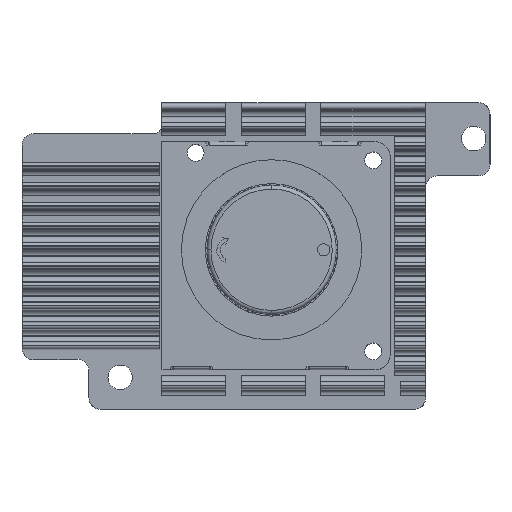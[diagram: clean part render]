
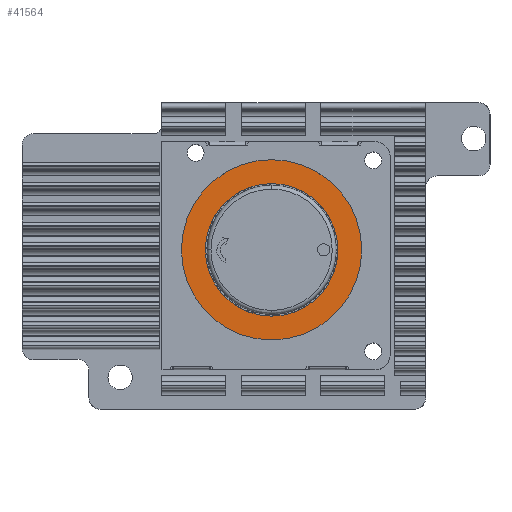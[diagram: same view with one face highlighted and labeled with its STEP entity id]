
A CAD part, top view. The second image highlights one B-rep face of the part: STEP entity #41564.
In plain terms, the highlighted planar face has unit normal (0, 0, 1).
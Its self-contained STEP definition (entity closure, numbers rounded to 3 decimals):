
#38407=CARTESIAN_POINT('',(22.1,36.79,11.25));
#38408=DIRECTION('',(0.,0.,-1.));
#38409=DIRECTION('',(-0.994,0.108,0.));
#38410=AXIS2_PLACEMENT_3D('',#38407,#38408,#38409);
#38412=CARTESIAN_POINT('',(22.1,36.79,11.25));
#38413=DIRECTION('',(0.,0.,-1.));
#38414=DIRECTION('',(1.,0.,0.));
#38415=AXIS2_PLACEMENT_3D('',#38412,#38413,#38414);
#38417=CARTESIAN_POINT('',(22.1,36.79,11.25));
#38418=DIRECTION('',(0.,0.,-1.));
#38419=DIRECTION('',(0.994,-0.108,0.));
#38420=AXIS2_PLACEMENT_3D('',#38417,#38418,#38419);
#38422=CARTESIAN_POINT('',(22.1,36.79,11.25));
#38423=DIRECTION('',(0.,0.,-1.));
#38424=DIRECTION('',(-1.,0.,0.));
#38425=AXIS2_PLACEMENT_3D('',#38422,#38423,#38424);
#38427=CARTESIAN_POINT('',(22.1,36.79,11.25));
#38428=DIRECTION('',(0.,0.,-1.));
#38429=DIRECTION('',(-0.998,0.066,0.));
#38430=AXIS2_PLACEMENT_3D('',#38427,#38428,#38429);
#38432=CARTESIAN_POINT('',(22.1,36.79,11.25));
#38433=DIRECTION('',(0.,0.,1.));
#38434=DIRECTION('',(0.,1.,0.));
#38435=AXIS2_PLACEMENT_3D('',#38432,#38433,#38434);
#38437=CARTESIAN_POINT('',(22.1,36.79,11.25));
#38438=DIRECTION('',(0.,0.,1.));
#38439=DIRECTION('',(0.,-1.,0.));
#38440=AXIS2_PLACEMENT_3D('',#38437,#38438,#38439);
#38675=CARTESIAN_POINT('',(22.1,45.426,11.25));
#38676=VERTEX_POINT('',#38675);
#38677=CARTESIAN_POINT('',(22.1,28.154,11.25));
#38678=VERTEX_POINT('',#38677);
#39261=CARTESIAN_POINT('',(9.673,38.143,11.25));
#39262=CARTESIAN_POINT('',(34.6,36.79,11.25));
#39263=VERTEX_POINT('',#39261);
#39264=VERTEX_POINT('',#39262);
#39265=CARTESIAN_POINT('',(34.527,35.437,11.25));
#39266=VERTEX_POINT('',#39265);
#39267=CARTESIAN_POINT('',(9.6,36.79,11.25));
#39268=VERTEX_POINT('',#39267);
#39269=CARTESIAN_POINT('',(9.628,37.619,11.25));
#39270=VERTEX_POINT('',#39269);
#41543=CARTESIAN_POINT('',(22.1,36.79,11.25));
#41544=DIRECTION('',(0.,0.,-1.));
#41545=DIRECTION('',(-1.,0.,0.));
#41546=AXIS2_PLACEMENT_3D('',#41543,#41544,#41545);
#41547=PLANE('',#41546);
#41549=ORIENTED_EDGE('',*,*,#41548,.T.);
#41551=ORIENTED_EDGE('',*,*,#41550,.T.);
#41553=ORIENTED_EDGE('',*,*,#41552,.T.);
#41555=ORIENTED_EDGE('',*,*,#41554,.T.);
#41557=ORIENTED_EDGE('',*,*,#41556,.T.);
#41558=EDGE_LOOP('',(#41549,#41551,#41553,#41555,#41557));
#41559=FACE_OUTER_BOUND('',#41558,.F.);
#41560=ORIENTED_EDGE('',*,*,#39750,.T.);
#41561=ORIENTED_EDGE('',*,*,#39332,.T.);
#41562=EDGE_LOOP('',(#41560,#41561));
#41563=FACE_BOUND('',#41562,.F.);
#41564=ADVANCED_FACE('',(#41559,#41563),#41547,.F.);
#38411=CIRCLE('',#38410,12.5);
#38416=CIRCLE('',#38415,12.5);
#38421=CIRCLE('',#38420,12.5);
#38426=CIRCLE('',#38425,12.5);
#38431=CIRCLE('',#38430,12.5);
#38436=CIRCLE('',#38435,8.636);
#38441=CIRCLE('',#38440,8.636);
#39332=EDGE_CURVE('',#38678,#38676,#38441,.T.);
#39750=EDGE_CURVE('',#38676,#38678,#38436,.T.);
#41548=EDGE_CURVE('',#39263,#39264,#38411,.T.);
#41550=EDGE_CURVE('',#39264,#39266,#38416,.T.);
#41552=EDGE_CURVE('',#39266,#39268,#38421,.T.);
#41554=EDGE_CURVE('',#39268,#39270,#38426,.T.);
#41556=EDGE_CURVE('',#39270,#39263,#38431,.T.);
